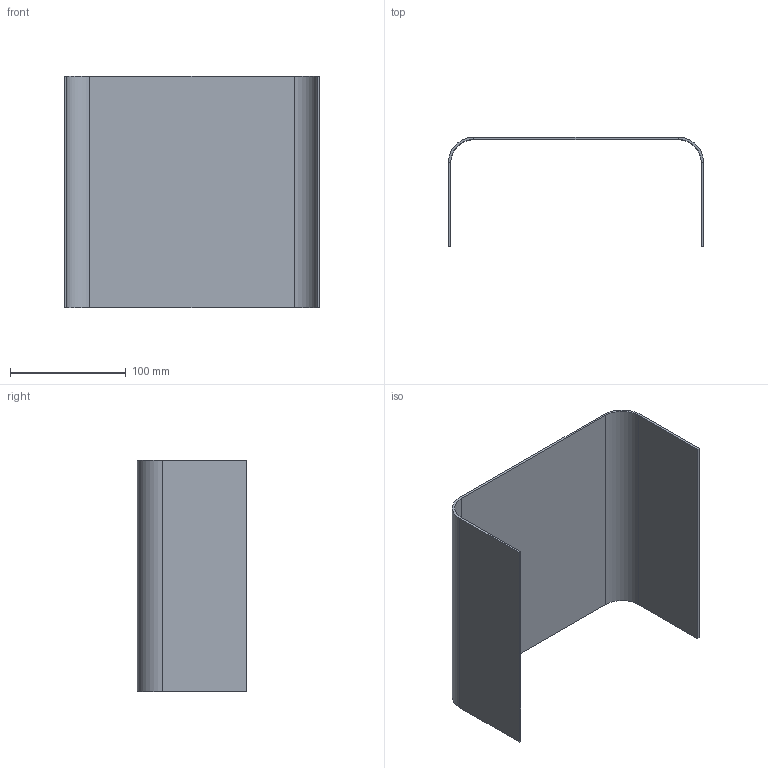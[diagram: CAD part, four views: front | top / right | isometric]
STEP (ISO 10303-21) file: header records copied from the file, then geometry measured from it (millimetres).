
FILE_DESCRIPTION (( 'STEP AP203' ), '1' );
FILE_NAME ('ORW-71.24.001 Êðûøêà.STEP', '2025-01-13T08:49:45', ( 'Àíäðåé' ), ( '' ), 'SwSTEP 2.0', 'SolidWorks 2023', '' );
FILE_SCHEMA (( 'CONFIG_CONTROL_DESIGN' ));
Length unit declared in the file: millimetre
Products named in the file (1): ORW-71.24.001 Крышка
Bounding box: 220 x 94.5 x 200 mm (x, y, z)
Volume: 154789.4 mm3; surface area: 157137.3 mm2
Topology: 1 solids, 1 shells, 22 faces, 44 edges, 24 vertices
Faces by surface type: plane 18, cylinder 4
Entity records: 625 total; most frequent: DIRECTION 98, CARTESIAN_POINT 91, ORIENTED_EDGE 88, EDGE_CURVE 44, VECTOR 36, LINE 36, AXIS2_PLACEMENT_3D 31, VERTEX_POINT 24
